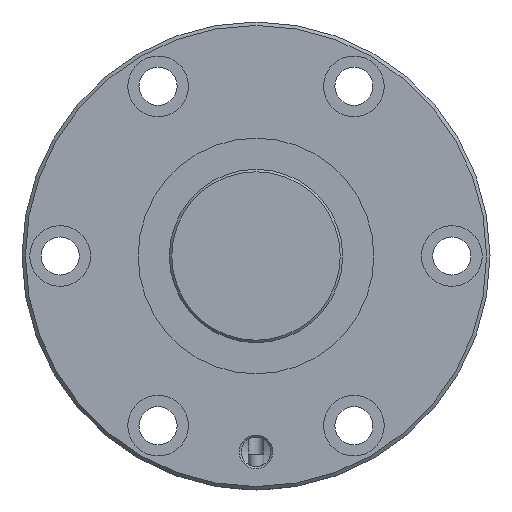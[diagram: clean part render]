
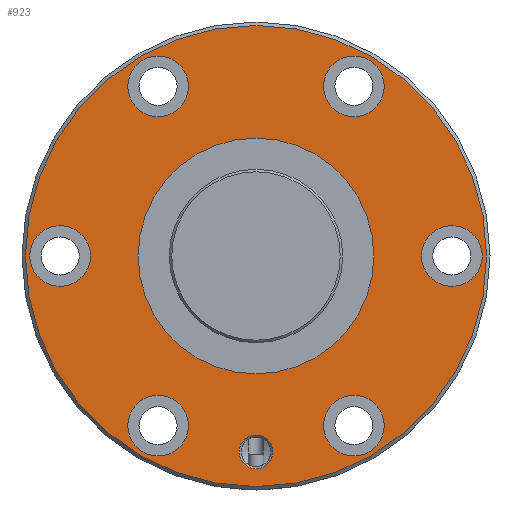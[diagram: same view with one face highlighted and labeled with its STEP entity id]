
A CAD part, left-side view. The second image highlights one B-rep face of the part: STEP entity #923.
In plain terms, the highlighted planar face has unit normal (-1, 0, 0).
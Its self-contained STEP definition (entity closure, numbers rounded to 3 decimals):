
#154=ORIENTED_EDGE('',*,*,#357,.T.);
#155=ORIENTED_EDGE('',*,*,#358,.T.);
#156=ORIENTED_EDGE('',*,*,#359,.T.);
#157=ORIENTED_EDGE('',*,*,#360,.T.);
#158=ORIENTED_EDGE('',*,*,#361,.T.);
#159=ORIENTED_EDGE('',*,*,#362,.T.);
#160=ORIENTED_EDGE('',*,*,#363,.T.);
#161=ORIENTED_EDGE('',*,*,#364,.T.);
#162=ORIENTED_EDGE('',*,*,#356,.F.);
#356=EDGE_CURVE('',#461,#461,#545,.T.);
#357=EDGE_CURVE('',#462,#462,#546,.T.);
#358=EDGE_CURVE('',#463,#463,#547,.F.);
#359=EDGE_CURVE('',#464,#464,#548,.T.);
#360=EDGE_CURVE('',#465,#465,#549,.T.);
#361=EDGE_CURVE('',#466,#466,#550,.T.);
#362=EDGE_CURVE('',#467,#467,#551,.T.);
#363=EDGE_CURVE('',#468,#468,#552,.T.);
#364=EDGE_CURVE('',#469,#469,#553,.T.);
#461=VERTEX_POINT('',#1551);
#462=VERTEX_POINT('',#1554);
#463=VERTEX_POINT('',#1556);
#464=VERTEX_POINT('',#1558);
#465=VERTEX_POINT('',#1560);
#466=VERTEX_POINT('',#1562);
#467=VERTEX_POINT('',#1564);
#468=VERTEX_POINT('',#1566);
#469=VERTEX_POINT('',#1568);
#545=CIRCLE('',#1030,66.5);
#546=CIRCLE('',#1032,34.);
#547=CIRCLE('',#1033,8.75);
#548=CIRCLE('',#1034,4.864);
#549=CIRCLE('',#1035,8.75);
#550=CIRCLE('',#1036,8.75);
#551=CIRCLE('',#1037,8.75);
#552=CIRCLE('',#1038,8.75);
#553=CIRCLE('',#1039,8.75);
#626=EDGE_LOOP('',(#154));
#627=EDGE_LOOP('',(#155));
#628=EDGE_LOOP('',(#156));
#629=EDGE_LOOP('',(#157));
#630=EDGE_LOOP('',(#158));
#631=EDGE_LOOP('',(#159));
#632=EDGE_LOOP('',(#160));
#633=EDGE_LOOP('',(#161));
#634=EDGE_LOOP('',(#162));
#766=FACE_BOUND('',#626,.T.);
#767=FACE_BOUND('',#627,.T.);
#768=FACE_BOUND('',#628,.T.);
#769=FACE_BOUND('',#629,.T.);
#770=FACE_BOUND('',#630,.T.);
#771=FACE_BOUND('',#631,.T.);
#772=FACE_BOUND('',#632,.T.);
#773=FACE_BOUND('',#633,.T.);
#774=FACE_BOUND('',#634,.T.);
#888=PLANE('',#1031);
#923=ADVANCED_FACE('',(#766,#767,#768,#769,#770,#771,#772,#773,#774),#888,
 .T.);
#1030=AXIS2_PLACEMENT_3D('',#1550,#1198,#1199);
#1031=AXIS2_PLACEMENT_3D('',#1552,#1200,#1201);
#1032=AXIS2_PLACEMENT_3D('',#1553,#1202,#1203);
#1033=AXIS2_PLACEMENT_3D('',#1555,#1204,#1205);
#1034=AXIS2_PLACEMENT_3D('',#1557,#1206,#1207);
#1035=AXIS2_PLACEMENT_3D('',#1559,#1208,#1209);
#1036=AXIS2_PLACEMENT_3D('',#1561,#1210,#1211);
#1037=AXIS2_PLACEMENT_3D('',#1563,#1212,#1213);
#1038=AXIS2_PLACEMENT_3D('',#1565,#1214,#1215);
#1039=AXIS2_PLACEMENT_3D('',#1567,#1216,#1217);
#1198=DIRECTION('',(1.,0.,0.));
#1199=DIRECTION('',(0.,0.,-1.));
#1200=DIRECTION('',(-1.,0.,0.));
#1201=DIRECTION('',(0.,0.,1.));
#1202=DIRECTION('',(1.,0.,0.));
#1203=DIRECTION('',(0.,0.,-1.));
#1204=DIRECTION('',(-1.,0.,0.));
#1205=DIRECTION('',(0.,0.,1.));
#1206=DIRECTION('',(1.,0.,0.));
#1207=DIRECTION('',(0.,0.,-1.));
#1208=DIRECTION('',(1.,0.,0.));
#1209=DIRECTION('',(0.,0.,-1.));
#1210=DIRECTION('',(1.,0.,0.));
#1211=DIRECTION('',(0.,0.,-1.));
#1212=DIRECTION('',(1.,0.,0.));
#1213=DIRECTION('',(0.,0.,-1.));
#1214=DIRECTION('',(1.,0.,0.));
#1215=DIRECTION('',(0.,0.,-1.));
#1216=DIRECTION('',(1.,0.,0.));
#1217=DIRECTION('',(0.,0.,-1.));
#1550=CARTESIAN_POINT('',(0.,0.,0.));
#1551=CARTESIAN_POINT('',(0.,0.,-66.5));
#1552=CARTESIAN_POINT('',(0.,66.5,0.));
#1553=CARTESIAN_POINT('',(0.,0.,0.));
#1554=CARTESIAN_POINT('',(0.,0.,-34.));
#1555=CARTESIAN_POINT('',(0.,56.5,0.));
#1556=CARTESIAN_POINT('',(0.,56.5,8.75));
#1557=CARTESIAN_POINT('',(0.,0.,-56.5));
#1558=CARTESIAN_POINT('',(0.,0.,-61.364));
#1559=CARTESIAN_POINT('',(0.,-56.5,0.));
#1560=CARTESIAN_POINT('',(0.,-56.5,-8.75));
#1561=CARTESIAN_POINT('',(0.,28.25,48.93));
#1562=CARTESIAN_POINT('',(0.,28.25,40.18));
#1563=CARTESIAN_POINT('',(0.,-28.25,-48.93));
#1564=CARTESIAN_POINT('',(0.,-28.25,-57.68));
#1565=CARTESIAN_POINT('',(0.,-28.25,48.93));
#1566=CARTESIAN_POINT('',(0.,-28.25,40.18));
#1567=CARTESIAN_POINT('',(0.,28.25,-48.93));
#1568=CARTESIAN_POINT('',(0.,28.25,-57.68));
